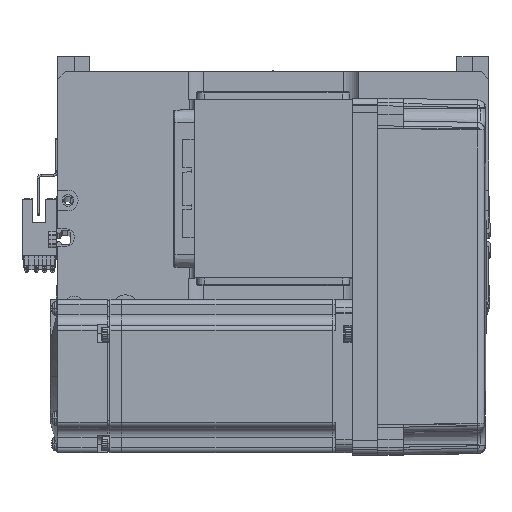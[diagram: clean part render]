
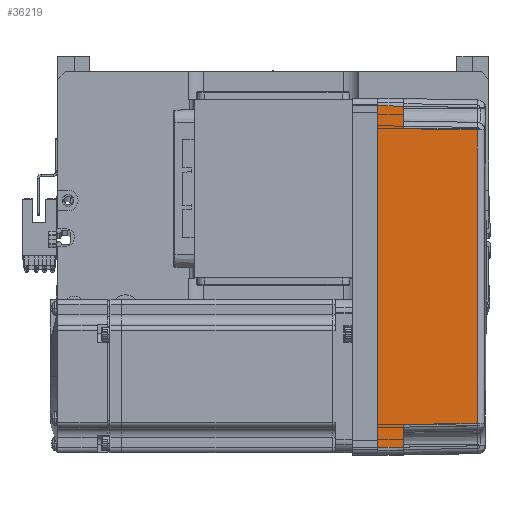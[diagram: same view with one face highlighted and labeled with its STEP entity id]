
A CAD part, top view. The second image highlights one B-rep face of the part: STEP entity #36219.
In plain terms, the highlighted planar face has unit normal (0.018, 0, 1) as drawn and (0, 1, 0.017) by its records, which use the part's own axes.
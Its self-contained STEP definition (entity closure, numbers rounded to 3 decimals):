
#1035 = ORIENTED_EDGE ( 'NONE', *, *, #14261, .F. ) ;
#1499 = ORIENTED_EDGE ( 'NONE', *, *, #9591, .T. ) ;
#2036 = VERTEX_POINT ( 'NONE', #52264 ) ;
#2771 = EDGE_CURVE ( 'NONE', #29203, #26653, #35377, .T. ) ;
#5157 = LINE ( 'NONE', #46680, #36752 ) ;
#5542 = CARTESIAN_POINT ( 'NONE',  ( 70., 35.825, 10. ) ) ;
#6014 = VECTOR ( 'NONE', #9825, 1000. ) ;
#6346 = DIRECTION ( 'NONE',  ( 0., -0.017, 1. ) ) ;
#8432 = VERTEX_POINT ( 'NONE', #51354 ) ;
#8537 = VECTOR ( 'NONE', #55717, 1000. ) ;
#9591 = EDGE_CURVE ( 'NONE', #54416, #17073, #16295, .T. ) ;
#9825 = DIRECTION ( 'NONE',  ( 0.017, 0.017, -1. ) ) ;
#11355 = CARTESIAN_POINT ( 'NONE',  ( 57.495, 35.32, 38.985 ) ) ;
#11410 = CARTESIAN_POINT ( 'NONE',  ( -57.495, 35.32, 38.985 ) ) ;
#12364 = DIRECTION ( 'NONE',  ( 0.017, -0.017, 1. ) ) ;
#12942 = DIRECTION ( 'NONE',  ( -0.017, -0.017, 1. ) ) ;
#14261 = EDGE_CURVE ( 'NONE', #54416, #2036, #32868, .T. ) ;
#16295 = LINE ( 'NONE', #21034, #8537 ) ;
#17073 = VERTEX_POINT ( 'NONE', #39323 ) ;
#17326 = DIRECTION ( 'NONE',  ( 1., 0., 0. ) ) ;
#21034 = CARTESIAN_POINT ( 'NONE',  ( -67., 36., 0. ) ) ;
#21517 = EDGE_CURVE ( 'NONE', #2036, #41630, #30730, .T. ) ;
#21731 = CARTESIAN_POINT ( 'NONE',  ( -19.165, 35.316, 39.181 ) ) ;
#23597 = ORIENTED_EDGE ( 'NONE', *, *, #44755, .T. ) ;
#24138 = CARTESIAN_POINT ( 'NONE',  ( 0., 36., 0. ) ) ;
#25225 = VECTOR ( 'NONE', #49564, 1000. ) ;
#25572 = PLANE ( 'NONE',  #54926 ) ;
#26106 = CARTESIAN_POINT ( 'NONE',  ( 66.826, 35.825, 10. ) ) ;
#26653 = VERTEX_POINT ( 'NONE', #61486 ) ;
#26760 = LINE ( 'NONE', #5542, #25225 ) ;
#28673 = CARTESIAN_POINT ( 'NONE',  ( 57.495, 35.32, 38.985 ) ) ;
#29203 = VERTEX_POINT ( 'NONE', #28673 ) ;
#29538 = DIRECTION ( 'NONE',  ( 1., 0., 0. ) ) ;
#29918 = CARTESIAN_POINT ( 'NONE',  ( 57.495, 35.32, 38.985 ) ) ;
#30564 = VERTEX_POINT ( 'NONE', #11410 ) ;
#30718 = ORIENTED_EDGE ( 'NONE', *, *, #21517, .F. ) ;
#30730 = LINE ( 'NONE', #42263, #36104 ) ;
#32352 = FACE_OUTER_BOUND ( 'NONE', #46829, .T. ) ;
#32868 = LINE ( 'NONE', #24138, #56729 ) ;
#35377 = LINE ( 'NONE', #29918, #6014 ) ;
#35918 = DIRECTION ( 'NONE',  ( 0., 1., 0.017 ) ) ;
#36104 = VECTOR ( 'NONE', #12942, 1000. ) ;
#36219 = ADVANCED_FACE ( 'NONE', ( #32352 ), #25572, .T. ) ;
#36752 = VECTOR ( 'NONE', #12364, 1000. ) ;
#39323 = CARTESIAN_POINT ( 'NONE',  ( -66.826, 35.825, 10. ) ) ;
#41318 = CARTESIAN_POINT ( 'NONE',  ( 19.165, 35.316, 39.181 ) ) ;
#41630 = VERTEX_POINT ( 'NONE', #26106 ) ;
#42064 = EDGE_CURVE ( 'NONE', #17073, #8432, #26760, .T. ) ;
#42263 = CARTESIAN_POINT ( 'NONE',  ( 67.001, 36.001, -0.052 ) ) ;
#43767 = ORIENTED_EDGE ( 'NONE', *, *, #2771, .T. ) ;
#44299 = ORIENTED_EDGE ( 'NONE', *, *, #42064, .T. ) ;
#44441 = CARTESIAN_POINT ( 'NONE',  ( -67., 36., 0. ) ) ;
#44755 = EDGE_CURVE ( 'NONE', #30564, #29203, #63729, .T. ) ;
#45817 = CARTESIAN_POINT ( 'NONE',  ( 70., 36., 0. ) ) ;
#46213 = ORIENTED_EDGE ( 'NONE', *, *, #60575, .T. ) ;
#46680 = CARTESIAN_POINT ( 'NONE',  ( -58., 35.825, 10. ) ) ;
#46829 = EDGE_LOOP ( 'NONE', ( #1499, #44299, #46213, #23597, #43767, #59724, #30718, #1035 ) ) ;
#49499 = LINE ( 'NONE', #56105, #58716 ) ;
#49564 = DIRECTION ( 'NONE',  ( 1., 0., 0. ) ) ;
#51354 = CARTESIAN_POINT ( 'NONE',  ( -58., 35.825, 10. ) ) ;
#52264 = CARTESIAN_POINT ( 'NONE',  ( 67., 36., 0. ) ) ;
#53554 = EDGE_CURVE ( 'NONE', #26653, #41630, #49499, .T. ) ;
#54416 = VERTEX_POINT ( 'NONE', #44441 ) ;
#54926 = AXIS2_PLACEMENT_3D ( 'NONE', #45817, #35918, #6346 ) ;
#55717 = DIRECTION ( 'NONE',  ( 0.017, -0.017, 1. ) ) ;
#56105 = CARTESIAN_POINT ( 'NONE',  ( 70., 35.825, 10. ) ) ;
#56399 = CARTESIAN_POINT ( 'NONE',  ( -57.495, 35.32, 38.985 ) ) ;
#56729 = VECTOR ( 'NONE', #29538, 1000. ) ;
#58716 = VECTOR ( 'NONE', #17326, 1000. ) ;
#59724 = ORIENTED_EDGE ( 'NONE', *, *, #53554, .T. ) ;
#60575 = EDGE_CURVE ( 'NONE', #8432, #30564, #5157, .T. ) ;
#61486 = CARTESIAN_POINT ( 'NONE',  ( 58., 35.825, 10. ) ) ;
#63729 = B_SPLINE_CURVE_WITH_KNOTS ( 'NONE', 3,
 ( #56399, #21731, #41318, #11355 ),
 .UNSPECIFIED., .F., .F.,
 ( 4, 4 ),
 ( 0., 1. ),
 .UNSPECIFIED. ) ;
